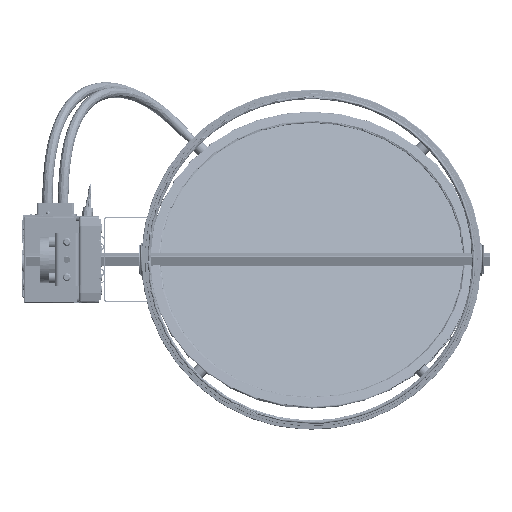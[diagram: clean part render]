
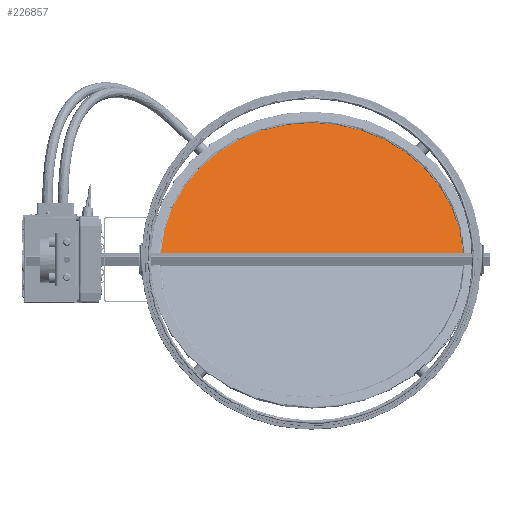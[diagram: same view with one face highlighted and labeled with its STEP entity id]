
A CAD part, left-side view. The second image highlights one B-rep face of the part: STEP entity #226857.
In plain terms, the highlighted planar face has unit normal (-0.906, 0, 0.423) as drawn and (0, 0, -1) by its records, which use the part's own axes.
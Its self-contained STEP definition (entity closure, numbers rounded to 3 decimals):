
#9896 = VECTOR ( 'NONE', #175813, 1000. ) ;
#23737 = PLANE ( 'NONE',  #176142 ) ;
#97450 = CARTESIAN_POINT ( 'NONE',  ( -6.071, 184.674, -0.66 ) ) ;
#101996 = VERTEX_POINT ( 'NONE', #222408 ) ;
#112608 = CARTESIAN_POINT ( 'NONE',  ( -6.071, 600., -0.66 ) ) ;
#114452 = DIRECTION ( 'NONE',  ( 0., 0., 1. ) ) ;
#135129 = EDGE_CURVE ( 'NONE', #101996, #336244, #173944, .T. ) ;
#135572 = ORIENTED_EDGE ( 'NONE', *, *, #151152, .T. ) ;
#151152 = EDGE_CURVE ( 'NONE', #336244, #101996, #300835, .T. ) ;
#173944 = LINE ( 'NONE', #289780, #9896 ) ;
#175813 = DIRECTION ( 'NONE',  ( 0., -1., 0. ) ) ;
#176142 = AXIS2_PLACEMENT_3D ( 'NONE', #112608, #114452, #195957 ) ;
#195957 = DIRECTION ( 'NONE',  ( 1., 0., 0. ) ) ;
#222408 = CARTESIAN_POINT ( 'NONE',  ( -6.071, 415.326, -0.66 ) ) ;
#226857 = ADVANCED_FACE ( 'NONE', ( #342110 ), #23737, .F. ) ;
#239970 = EDGE_LOOP ( 'NONE', ( #372089, #135572 ) ) ;
#258527 = AXIS2_PLACEMENT_3D ( 'NONE', #346336, #321650, #293178 ) ;
#289780 = CARTESIAN_POINT ( 'NONE',  ( -6.071, 600., -0.66 ) ) ;
#293178 = DIRECTION ( 'NONE',  ( -1., 0., 0. ) ) ;
#300835 = CIRCLE ( 'NONE', #258527, 115.485 ) ;
#321650 = DIRECTION ( 'NONE',  ( 0., 0., -1. ) ) ;
#336244 = VERTEX_POINT ( 'NONE', #97450 ) ;
#342110 = FACE_OUTER_BOUND ( 'NONE', #239970, .T. ) ;
#346336 = CARTESIAN_POINT ( 'NONE',  ( 0., 300., -0.66 ) ) ;
#372089 = ORIENTED_EDGE ( 'NONE', *, *, #135129, .T. ) ;
